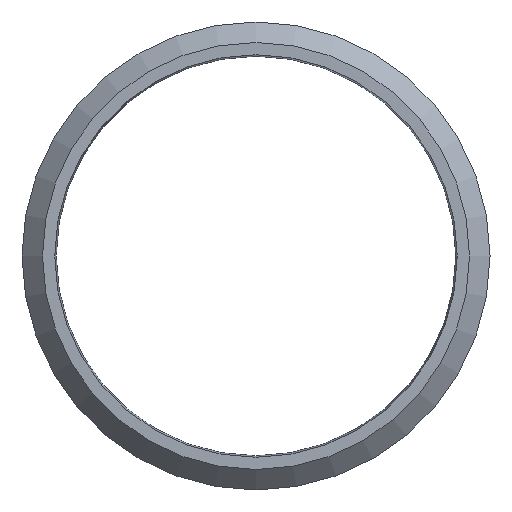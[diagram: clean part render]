
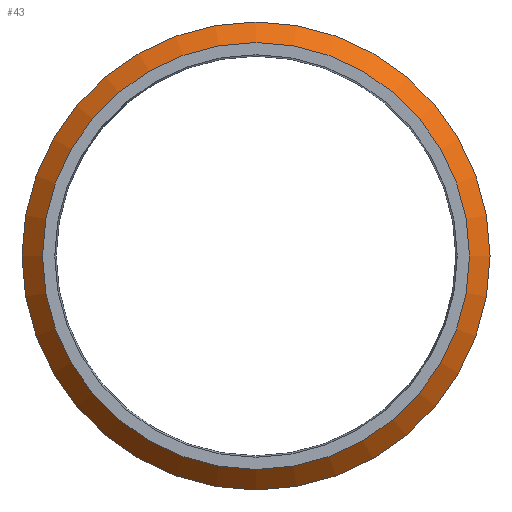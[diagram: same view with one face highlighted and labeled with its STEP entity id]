
A CAD part, left-side view. The second image highlights one B-rep face of the part: STEP entity #43.
In plain terms, the highlighted conical face has half-angle 45 degrees and reference radius 19.6 mm.
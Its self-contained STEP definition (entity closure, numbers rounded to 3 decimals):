
#43 = ADVANCED_FACE( '', ( #94, #95 ), #96, .T. );
#94 = FACE_BOUND( '', #161, .T. );
#95 = FACE_OUTER_BOUND( '', #162, .T. );
#96 = CONICAL_SURFACE( '', #163, 19.6, 0.785 );
#161 = EDGE_LOOP( '', ( #226 ) );
#162 = EDGE_LOOP( '', ( #227 ) );
#163 = AXIS2_PLACEMENT_3D( '', #228, #229, #230 );
#226 = ORIENTED_EDGE( '', *, *, #310, .T. );
#227 = ORIENTED_EDGE( '', *, *, #307, .T. );
#228 = CARTESIAN_POINT( '', ( -7.425, -13.382, 0. ) );
#229 = DIRECTION( '', ( 1., 0., 0. ) );
#230 = DIRECTION( '', ( 0., -1., 0. ) );
#307 = EDGE_CURVE( '', #339, #339, #340, .T. );
#310 = EDGE_CURVE( '', #344, #344, #345, .T. );
#339 = VERTEX_POINT( '', #384 );
#340 = CIRCLE( '', #385, 20.5 );
#344 = VERTEX_POINT( '', #389 );
#345 = CIRCLE( '', #390, 18.7 );
#384 = CARTESIAN_POINT( '', ( -6.525, -33.882, 0. ) );
#385 = AXIS2_PLACEMENT_3D( '', #429, #430, #431 );
#389 = CARTESIAN_POINT( '', ( -8.325, -32.082, 0. ) );
#390 = AXIS2_PLACEMENT_3D( '', #435, #436, #437 );
#429 = CARTESIAN_POINT( '', ( -6.525, -13.382, 0. ) );
#430 = DIRECTION( '', ( -1., 0., 0. ) );
#431 = DIRECTION( '', ( 0., -1., 0. ) );
#435 = CARTESIAN_POINT( '', ( -8.325, -13.382, 0. ) );
#436 = DIRECTION( '', ( 1., 0., 0. ) );
#437 = DIRECTION( '', ( 0., -1., 0. ) );
